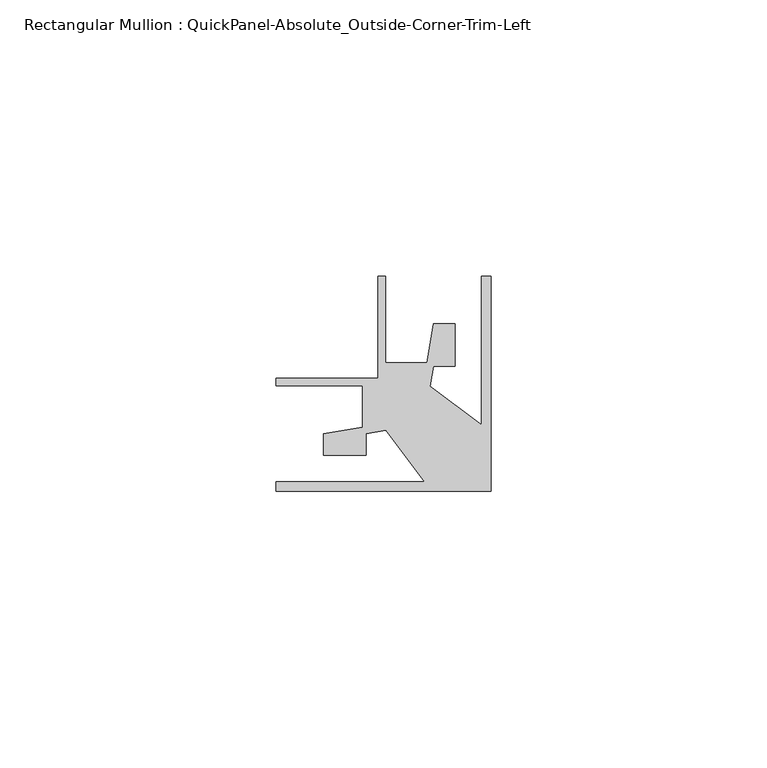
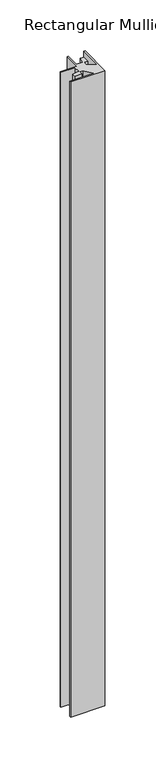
"""IFC4 building model written with IfcOpenShell, lengths in millimetres: member geometry, Rectangular Mullion : QuickPanel-Absolute_Outside-Corner-Trim-Left."""

import ifcopenshell
import ifcopenshell.guid

model = None  # the IFC model being written
_history = None  # IfcOwnerHistory: only IFC2X3 demands one
_inside = {}  # id of a spatial element -> (the spatial element, [elements in it])
_under = {}  # id of a project, library or spatial element -> (it, [spatial elements below it])
_declared = {}  # id of a project -> (the project, [libraries it declares])
_typed = {}  # id of a type object -> (the type object, [elements of that type])
_made_of = {}  # id of a material, layer set ... -> (it, [elements and type objects made of it])


def new_model(schema):
    """Start an empty IFC model of exactly this schema.

    Asked for "IFC4X3", IfcOpenShell would pick the latest addendum, in which some entities
    have other attributes; the version numbers below select the first issue.
    IFC2X3 requires an IfcOwnerHistory on every rooted entity: one is made here for all.
    """
    global model, _history
    if schema == "IFC4X3":
        model = ifcopenshell.file(schema_version=(4, 3, 0, 0))
    else:
        model = ifcopenshell.file(schema=schema)
    _inside.clear()
    _under.clear()
    _declared.clear()
    _typed.clear()
    _made_of.clear()
    _history = None
    if model.schema == "IFC2X3":
        org = make("IfcOrganization", Name="unknown")
        user = make(
            "IfcPersonAndOrganization",
            ThePerson=make("IfcPerson", FamilyName="unknown"),
            TheOrganization=org,
        )
        app = make(
            "IfcApplication",
            ApplicationDeveloper=org,
            Version="unknown",
            ApplicationFullName="unknown",
            ApplicationIdentifier="unknown",
        )
        _history = make(
            "IfcOwnerHistory",
            OwningUser=user,
            OwningApplication=app,
            ChangeAction="ADDED",
            CreationDate=0,
        )
    return model


def make(cls, **values):
    """One entity of the class cls with the attributes given. An attribute that is None is left unset."""
    return model.create_entity(
        cls, **{name: value for name, value in values.items() if value is not None}
    )


def rooted(cls, **values):
    """An entity with a GlobalId (a new one), such as an element, a storey or a relation."""
    return make(cls, GlobalId=ifcopenshell.guid.new(), OwnerHistory=_history, **values)


def si_unit(unit_type, name, prefix=None):
    """IfcSIUnit, for example si_unit("LENGTHUNIT", "METRE", prefix="MILLI")."""
    return make("IfcSIUnit", UnitType=unit_type, Prefix=prefix, Name=name)


def assignment(units):
    """IfcUnitAssignment: the units of a project."""
    return None if units is None else make("IfcUnitAssignment", Units=units)


def point(xyz):
    """IfcCartesianPoint."""
    return None if xyz is None else make("IfcCartesianPoint", Coordinates=xyz)


def direction(xyz):
    """IfcDirection."""
    return None if xyz is None else make("IfcDirection", DirectionRatios=xyz)


def frame(location, z_axis=None, x_axis=None):
    """IfcAxis2Placement3D, a coordinate frame: its origin and axes. An axis left out is left unset."""
    return make(
        "IfcAxis2Placement3D",
        Location=point(location),
        Axis=direction(z_axis),
        RefDirection=direction(x_axis),
    )


def origin():
    """The frame at (0, 0, 0) with its axes left unset."""
    return frame((0.0, 0.0, 0.0))


def place(relative_to, where):
    """IfcLocalPlacement: puts the frame where relative to a parent placement (None: the world)."""
    return make(
        "IfcLocalPlacement", PlacementRelTo=relative_to, RelativePlacement=where
    )


def context(
    kind, dimensions, precision=None, world=None, true_north=None, identifier=None
):
    """IfcGeometricRepresentationContext, for example the 3D "Model" context."""
    return make(
        "IfcGeometricRepresentationContext",
        ContextIdentifier=identifier,
        ContextType=kind,
        CoordinateSpaceDimension=dimensions,
        Precision=precision,
        WorldCoordinateSystem=world,
        TrueNorth=true_north,
    )


def project(units=None, contexts=None):
    """IfcProject with its units and contexts."""
    return rooted(
        "IfcProject",
        Name="project",
        RepresentationContexts=contexts,
        UnitsInContext=assignment(units),
    )


def spatial(cls, under=None, at=None, **own):
    """A site, building, storey or space (cls), placed at a placement, below another one or the project."""
    s = rooted(cls, ObjectPlacement=at, **own)
    if under is not None:
        _under.setdefault(under.id(), (under, []))[1].append(s)
    return s


def polyline(points):
    """IfcPolyline through the points."""
    return make("IfcPolyline", Points=[point(p) for p in points])


def outline(outer, holes=None, kind="AREA"):
    """IfcArbitraryClosedProfileDef: a profile drawn as a closed curve; with holes, ...WithVoids."""
    if holes is None:
        return make("IfcArbitraryClosedProfileDef", ProfileType=kind, OuterCurve=outer)
    return make(
        "IfcArbitraryProfileDefWithVoids",
        ProfileType=kind,
        OuterCurve=outer,
        InnerCurves=holes,
    )


def extrude(swept, where, along, depth):
    """IfcExtrudedAreaSolid: the profile swept, set in the frame where, extruded along a direction by depth."""
    return make(
        "IfcExtrudedAreaSolid",
        SweptArea=swept,
        Position=where,
        ExtrudedDirection=direction(along),
        Depth=depth,
    )


def shape(context_of_items, identifier, shape_type, items):
    """IfcShapeRepresentation: the items that make up one representation, for example the "Body"."""
    return make(
        "IfcShapeRepresentation",
        ContextOfItems=context_of_items,
        RepresentationIdentifier=identifier,
        RepresentationType=shape_type,
        Items=items,
    )


def source(mapping_origin, context_of_items, identifier, shape_type, items):
    """IfcRepresentationMap: a shape defined once, which mapped items show again and again."""
    return make(
        "IfcRepresentationMap",
        MappingOrigin=mapping_origin,
        MappedRepresentation=shape(context_of_items, identifier, shape_type, items),
    )


def transform(
    local_origin,
    x_axis=None,
    y_axis=None,
    z_axis=None,
    scale=None,
    scale2=None,
    scale3=None,
    uniform=True,
):
    """IfcCartesianTransformationOperator3D, or its non-uniform kind. x_axis, y_axis, z_axis: its Axis1, 2, 3."""
    if uniform:
        return make(
            "IfcCartesianTransformationOperator3D",
            Axis1=direction(x_axis),
            Axis2=direction(y_axis),
            LocalOrigin=point(local_origin),
            Scale=scale,
            Axis3=direction(z_axis),
        )
    return make(
        "IfcCartesianTransformationOperator3DnonUniform",
        Axis1=direction(x_axis),
        Axis2=direction(y_axis),
        LocalOrigin=point(local_origin),
        Scale=scale,
        Axis3=direction(z_axis),
        Scale2=scale2,
        Scale3=scale3,
    )


def mapped(mapping_source, mapping_target):
    """IfcMappedItem: shows the shape of a source again, moved by a transform."""
    return make(
        "IfcMappedItem", MappingSource=mapping_source, MappingTarget=mapping_target
    )


def made_of(thing, what):
    """Note that an element or type object is made of a material, layer set ...; save() writes the relation."""
    if what is not None:
        _made_of.setdefault(what.id(), (what, []))[1].append(thing)
    return thing


def element(
    cls,
    number,
    at=None,
    inside=None,
    cuts=None,
    type_object=None,
    material=None,
    context=None,
    identifier="Body",
    shape_type=None,
    held_by="IfcProductDefinitionShape",
    body=None,
    shapes=None,
    **own,
):
    """One element of the class cls, such as IfcWall. Its Tag is "e" and its number.

    at: its placement. inside: the storey or other place that contains it. cuts: it is an
    opening in that element (IfcRelVoidsElement). A single representation is given by context,
    identifier, shape_type and body (its items); several are given by shapes. held_by: the class
    of the entity that holds the representations. save() writes the other relations.
    """
    e = rooted(cls, Tag="e%d" % number, ObjectPlacement=at, **own)
    if body is not None:
        shapes = [shape(context, identifier, shape_type, body)]
    if shapes is not None:
        e.Representation = make(held_by, Representations=shapes)
    if inside is not None:
        _inside.setdefault(inside.id(), (inside, []))[1].append(e)
    if cuts is not None:
        rooted(
            "IfcRelVoidsElement", RelatingBuildingElement=cuts, RelatedOpeningElement=e
        )
    if type_object is not None:
        _typed.setdefault(type_object.id(), (type_object, []))[1].append(e)
    return made_of(e, material)


def aggregate(whole, parts):
    """IfcRelAggregates: a whole, such as a stair, and the parts it consists of."""
    return rooted("IfcRelAggregates", RelatingObject=whole, RelatedObjects=parts)


def save(model, path):
    """Write the relations noted so far, then the file.

    IfcRelAggregates (storeys below a building ...), IfcRelContainedInSpatialStructure (elements
    in a storey), IfcRelDefinesByType, IfcRelAssociatesMaterial and IfcRelDeclares: one each for
    every whole, place, type object, material and project.
    """
    for whole, parts in _under.values():
        aggregate(whole, parts)
    for where, things in _inside.values():
        rooted(
            "IfcRelContainedInSpatialStructure",
            RelatedElements=things,
            RelatingStructure=where,
        )
    for kind, things in _typed.values():
        rooted("IfcRelDefinesByType", RelatedObjects=things, RelatingType=kind)
    for what, things in _made_of.values():
        rooted("IfcRelAssociatesMaterial", RelatedObjects=things, RelatingMaterial=what)
    for by, libraries in _declared.values():
        rooted("IfcRelDeclares", RelatingContext=by, RelatedDefinitions=libraries)
    model.write(path)


def rectangular_mullion_quickpanel_absolute_outside_corner_trim_b60b09aa(model_context):
    return source(origin(), model_context, "Body", "SweptSolid", [
        extrude(outline(polyline([(-11.9918292, -10.4985348), (-19.0342818, -1.1528845), (-22.6039877, -1.7648465), (-22.6039877, -5.6493034), (-30.3487608, -5.6493034), (-30.3487608, -1.8040245), (-23.2634067, -0.5893678), (-23.2634067, 6.8797084), (-38.9299221, 6.8797084), (-38.9299221, 8.279737), (-20.4601097, 8.279737), (-20.4601097, 26.7495494), (-19.0600811, 26.7495494), (-19.0600811, 11.083034), (-11.5910049, 11.083034), (-10.3763482, 18.168388), (-6.5310693, 18.168388), (-6.5310693, 10.423615), (-10.4155262, 10.423615), (-11.0274882, 6.8539091), (-1.6818379, -0.1885435), (-1.6818379, 26.7495494), (0.0, 26.7495494), (0.0, -12.1803727), (-38.9299221, -12.1803727), (-38.9299221, -10.4985348), (-11.9918292, -10.4985348)])), frame((0.0, 0.0, -762.0), z_axis=(0.0, 0.0, 1.0), x_axis=(1.0, 0.0, 0.0)), (0.0, 0.0, 1.0), 762.0),
    ])


if __name__ == "__main__":
    model = new_model("IFC4")
    model_context = context("Model", 3, world=origin())
    ifc_project = project(units=[si_unit("LENGTHUNIT", "METRE", prefix="MILLI")], contexts=[model_context])
    site = spatial("IfcSite", under=ifc_project)
    building = spatial("IfcBuilding", under=site)
    placement = place(None, origin())
    rectangular_mullion_quickpanel_absolute_outside_corner_trim_shape = rectangular_mullion_quickpanel_absolute_outside_corner_trim_b60b09aa(model_context)
    element("IfcMember", 1, ObjectType="Rectangular Mullion : QuickPanel-Absolute_Outside-Corner-Trim-Left", at=placement, inside=building, context=model_context, shape_type="MappedRepresentation", body=[
        mapped(rectangular_mullion_quickpanel_absolute_outside_corner_trim_shape, transform((0.0, 0.0, 0.0), x_axis=(1.0, 0.0, 0.0), y_axis=(0.0, 1.0, 0.0), z_axis=(0.0, 0.0, 1.0))),
    ])
    save(model, "model.ifc")
